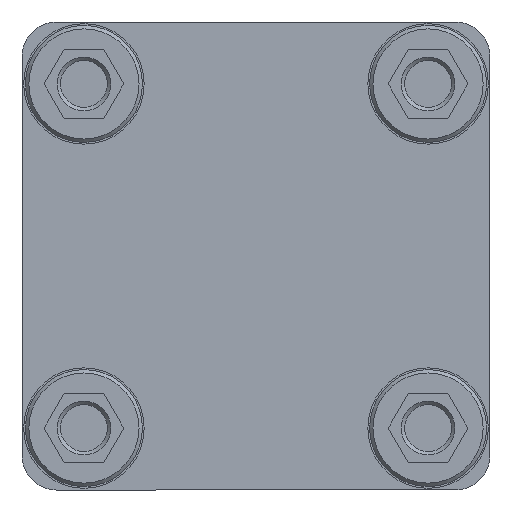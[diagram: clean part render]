
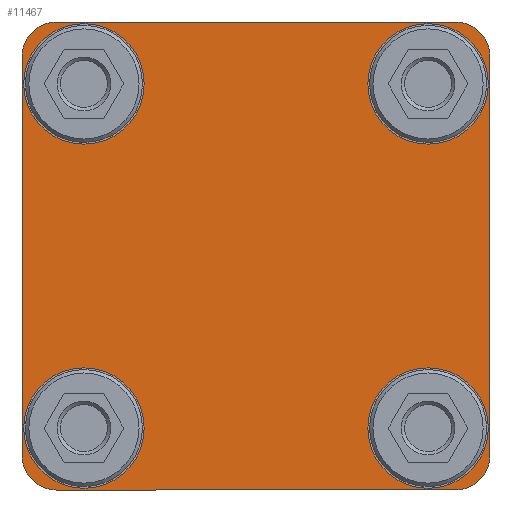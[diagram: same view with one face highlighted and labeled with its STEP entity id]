
A CAD part, left-side view. The second image highlights one B-rep face of the part: STEP entity #11467.
In plain terms, the highlighted planar face has unit normal (-1, 0, 0) as drawn and (1, 0, 0) by its records, which use the part's own axes.
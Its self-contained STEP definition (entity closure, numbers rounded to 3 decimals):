
#1256=FACE_BOUND('',#2306,.T.);
#1257=FACE_BOUND('',#2307,.T.);
#1258=FACE_BOUND('',#2308,.T.);
#1259=FACE_BOUND('',#2309,.T.);
#1389=PLANE('',#12312);
#1627=FACE_OUTER_BOUND('',#2305,.T.);
#2305=EDGE_LOOP('',(#7940,#7941,#7942,#7943,#7944,#7945,#7946,#7947));
#2306=EDGE_LOOP('',(#7948));
#2307=EDGE_LOOP('',(#7949));
#2308=EDGE_LOOP('',(#7950));
#2309=EDGE_LOOP('',(#7951));
#3067=LINE('',#15374,#3807);
#3071=LINE('',#15383,#3811);
#3077=LINE('',#15396,#3817);
#3081=LINE('',#15407,#3821);
#3807=VECTOR('',#13088,58.);
#3811=VECTOR('',#13094,58.);
#3817=VECTOR('',#13102,58.);
#3821=VECTOR('',#13110,58.);
#4535=CIRCLE('',#12241,8.75);
#4538=CIRCLE('',#12246,8.75);
#4541=CIRCLE('',#12251,8.75);
#4544=CIRCLE('',#12256,8.75);
#4559=CIRCLE('',#12284,5.);
#4560=CIRCLE('',#12286,5.);
#4561=CIRCLE('',#12288,5.);
#4562=CIRCLE('',#12290,5.);
#4861=VERTEX_POINT('',#15282);
#4864=VERTEX_POINT('',#15291);
#4867=VERTEX_POINT('',#15300);
#4870=VERTEX_POINT('',#15309);
#4883=VERTEX_POINT('',#15372);
#4884=VERTEX_POINT('',#15373);
#4887=VERTEX_POINT('',#15381);
#4888=VERTEX_POINT('',#15382);
#4893=VERTEX_POINT('',#15393);
#4894=VERTEX_POINT('',#15395);
#4898=VERTEX_POINT('',#15404);
#4899=VERTEX_POINT('',#15406);
#6042=EDGE_CURVE('',#4861,#4861,#4535,.T.);
#6046=EDGE_CURVE('',#4864,#4864,#4538,.T.);
#6050=EDGE_CURVE('',#4867,#4867,#4541,.T.);
#6054=EDGE_CURVE('',#4870,#4870,#4544,.T.);
#6074=EDGE_CURVE('',#4883,#4884,#3067,.T.);
#6078=EDGE_CURVE('',#4887,#4888,#3071,.T.);
#6084=EDGE_CURVE('',#4893,#4894,#3077,.T.);
#6089=EDGE_CURVE('',#4898,#4899,#3081,.T.);
#6096=EDGE_CURVE('',#4898,#4884,#4559,.T.);
#6097=EDGE_CURVE('',#4883,#4888,#4560,.T.);
#6098=EDGE_CURVE('',#4893,#4899,#4561,.T.);
#6099=EDGE_CURVE('',#4887,#4894,#4562,.T.);
#7940=ORIENTED_EDGE('',*,*,#6089,.F.);
#7941=ORIENTED_EDGE('',*,*,#6096,.T.);
#7942=ORIENTED_EDGE('',*,*,#6074,.F.);
#7943=ORIENTED_EDGE('',*,*,#6097,.T.);
#7944=ORIENTED_EDGE('',*,*,#6078,.F.);
#7945=ORIENTED_EDGE('',*,*,#6099,.T.);
#7946=ORIENTED_EDGE('',*,*,#6084,.F.);
#7947=ORIENTED_EDGE('',*,*,#6098,.T.);
#7948=ORIENTED_EDGE('',*,*,#6042,.T.);
#7949=ORIENTED_EDGE('',*,*,#6046,.T.);
#7950=ORIENTED_EDGE('',*,*,#6050,.T.);
#7951=ORIENTED_EDGE('',*,*,#6054,.T.);
#11467=ADVANCED_FACE('',(#1627,#1256,#1257,#1258,#1259),#1389,.T.);
#12241=AXIS2_PLACEMENT_3D('',#15283,#13012,#13013);
#12246=AXIS2_PLACEMENT_3D('',#15292,#13023,#13024);
#12251=AXIS2_PLACEMENT_3D('',#15301,#13034,#13035);
#12256=AXIS2_PLACEMENT_3D('',#15310,#13045,#13046);
#12284=AXIS2_PLACEMENT_3D('',#15417,#13126,#13127);
#12286=AXIS2_PLACEMENT_3D('',#15419,#13130,#13131);
#12288=AXIS2_PLACEMENT_3D('',#15421,#13134,#13135);
#12290=AXIS2_PLACEMENT_3D('',#15423,#13138,#13139);
#12312=AXIS2_PLACEMENT_3D('',#15462,#13188,#13189);
#13012=DIRECTION('center_axis',(-1.,0.,0.));
#13013=DIRECTION('ref_axis',(0.,1.,0.));
#13023=DIRECTION('center_axis',(-1.,0.,0.));
#13024=DIRECTION('ref_axis',(0.,1.,0.));
#13034=DIRECTION('center_axis',(-1.,0.,0.));
#13035=DIRECTION('ref_axis',(0.,1.,0.));
#13045=DIRECTION('center_axis',(-1.,0.,0.));
#13046=DIRECTION('ref_axis',(0.,1.,0.));
#13088=DIRECTION('',(0.,0.,1.));
#13094=DIRECTION('',(0.,-1.,0.));
#13102=DIRECTION('',(0.,0.,-1.));
#13110=DIRECTION('',(0.,1.,0.));
#13126=DIRECTION('center_axis',(1.,0.,0.));
#13127=DIRECTION('ref_axis',(0.,0.,-1.));
#13130=DIRECTION('center_axis',(1.,0.,0.));
#13131=DIRECTION('ref_axis',(0.,0.,-1.));
#13134=DIRECTION('center_axis',(1.,0.,0.));
#13135=DIRECTION('ref_axis',(0.,0.,-1.));
#13138=DIRECTION('center_axis',(1.,0.,0.));
#13139=DIRECTION('ref_axis',(0.,0.,-1.));
#13188=DIRECTION('center_axis',(1.,0.,0.));
#13189=DIRECTION('ref_axis',(0.,0.,-1.));
#15282=CARTESIAN_POINT('',(0.,16.25,25.));
#15283=CARTESIAN_POINT('Origin',(0.,25.,25.));
#15291=CARTESIAN_POINT('',(0.,16.25,-25.));
#15292=CARTESIAN_POINT('Origin',(0.,25.,-25.));
#15300=CARTESIAN_POINT('',(0.,-33.75,25.));
#15301=CARTESIAN_POINT('Origin',(0.,-25.,25.));
#15309=CARTESIAN_POINT('',(0.,-33.75,-25.));
#15310=CARTESIAN_POINT('Origin',(0.,-25.,-25.));
#15372=CARTESIAN_POINT('',(0.,-34.,-29.));
#15373=CARTESIAN_POINT('',(0.,-34.,29.));
#15374=CARTESIAN_POINT('',(0.,-34.,-29.));
#15381=CARTESIAN_POINT('',(0.,29.,-34.));
#15382=CARTESIAN_POINT('',(0.,-29.,-34.));
#15383=CARTESIAN_POINT('',(0.,29.,-34.));
#15393=CARTESIAN_POINT('',(0.,34.,29.));
#15395=CARTESIAN_POINT('',(0.,34.,-29.));
#15396=CARTESIAN_POINT('',(0.,34.,29.));
#15404=CARTESIAN_POINT('',(0.,-29.,34.));
#15406=CARTESIAN_POINT('',(0.,29.,34.));
#15407=CARTESIAN_POINT('',(0.,-29.,34.));
#15417=CARTESIAN_POINT('Origin',(0.,-29.,29.));
#15419=CARTESIAN_POINT('Origin',(0.,-29.,-29.));
#15421=CARTESIAN_POINT('Origin',(0.,29.,29.));
#15423=CARTESIAN_POINT('Origin',(0.,29.,-29.));
#15462=CARTESIAN_POINT('Origin',(0.,0.,0.));
